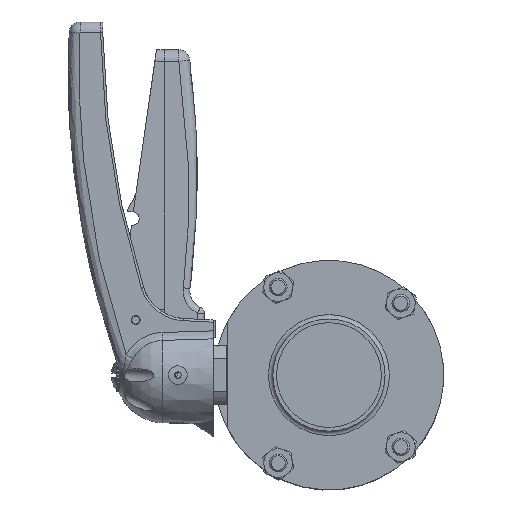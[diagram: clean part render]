
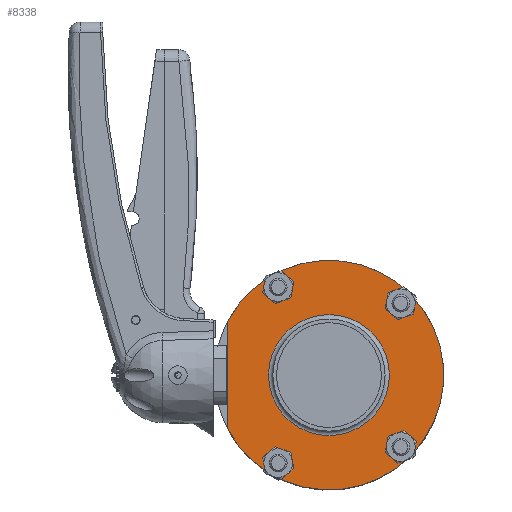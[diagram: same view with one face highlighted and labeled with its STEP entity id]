
A CAD part, top view. The second image highlights one B-rep face of the part: STEP entity #8338.
In plain terms, the highlighted planar face has unit normal (0, 0, 1) as drawn and (1, 0, 0) by its records, which use the part's own axes.
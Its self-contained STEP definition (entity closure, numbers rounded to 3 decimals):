
#876=FACE_BOUND('',#1814,.T.);
#877=FACE_BOUND('',#1815,.T.);
#878=FACE_BOUND('',#1816,.T.);
#879=FACE_BOUND('',#1817,.T.);
#880=FACE_BOUND('',#1818,.T.);
#938=PLANE('',#9062);
#1305=FACE_OUTER_BOUND('',#1813,.T.);
#1813=EDGE_LOOP('',(#6083,#6084));
#1814=EDGE_LOOP('',(#6085));
#1815=EDGE_LOOP('',(#6086));
#1816=EDGE_LOOP('',(#6087));
#1817=EDGE_LOOP('',(#6088));
#1818=EDGE_LOOP('',(#6089));
#2309=LINE('',#12230,#2891);
#2891=VECTOR('',#10012,10.);
#3485=CIRCLE('',#9047,52.);
#3491=CIRCLE('',#9055,4.1);
#3492=CIRCLE('',#9057,4.1);
#3493=CIRCLE('',#9059,4.1);
#3494=CIRCLE('',#9061,4.1);
#3495=CIRCLE('',#9063,27.4);
#3838=VERTEX_POINT('',#12228);
#3839=VERTEX_POINT('',#12229);
#3847=VERTEX_POINT('',#12251);
#3848=VERTEX_POINT('',#12255);
#3849=VERTEX_POINT('',#12259);
#3850=VERTEX_POINT('',#12263);
#3851=VERTEX_POINT('',#12267);
#4672=EDGE_CURVE('',#3838,#3839,#2309,.T.);
#4677=EDGE_CURVE('',#3839,#3838,#3485,.T.);
#4683=EDGE_CURVE('',#3847,#3847,#3491,.T.);
#4685=EDGE_CURVE('',#3848,#3848,#3492,.T.);
#4687=EDGE_CURVE('',#3849,#3849,#3493,.T.);
#4689=EDGE_CURVE('',#3850,#3850,#3494,.T.);
#4691=EDGE_CURVE('',#3851,#3851,#3495,.T.);
#6083=ORIENTED_EDGE('',*,*,#4672,.T.);
#6084=ORIENTED_EDGE('',*,*,#4677,.T.);
#6085=ORIENTED_EDGE('',*,*,#4683,.T.);
#6086=ORIENTED_EDGE('',*,*,#4685,.T.);
#6087=ORIENTED_EDGE('',*,*,#4687,.T.);
#6088=ORIENTED_EDGE('',*,*,#4689,.T.);
#6089=ORIENTED_EDGE('',*,*,#4691,.F.);
#8338=ADVANCED_FACE('',(#1305,#876,#877,#878,#879,#880),#938,.T.);
#9047=AXIS2_PLACEMENT_3D('',#12238,#10020,#10021);
#9055=AXIS2_PLACEMENT_3D('',#12252,#10036,#10037);
#9057=AXIS2_PLACEMENT_3D('',#12256,#10041,#10042);
#9059=AXIS2_PLACEMENT_3D('',#12260,#10046,#10047);
#9061=AXIS2_PLACEMENT_3D('',#12264,#10051,#10052);
#9062=AXIS2_PLACEMENT_3D('',#12266,#10054,#10055);
#9063=AXIS2_PLACEMENT_3D('',#12268,#10056,#10057);
#10012=DIRECTION('',(0.,0.,1.));
#10020=DIRECTION('center_axis',(1.,0.,0.));
#10021=DIRECTION('ref_axis',(0.,0.,-1.));
#10036=DIRECTION('center_axis',(-1.,0.,0.));
#10037=DIRECTION('ref_axis',(0.,0.,1.));
#10041=DIRECTION('center_axis',(-1.,0.,0.));
#10042=DIRECTION('ref_axis',(0.,0.,1.));
#10046=DIRECTION('center_axis',(-1.,0.,0.));
#10047=DIRECTION('ref_axis',(0.,0.,-1.));
#10051=DIRECTION('center_axis',(-1.,0.,0.));
#10052=DIRECTION('ref_axis',(0.,0.,-1.));
#10054=DIRECTION('center_axis',(1.,0.,0.));
#10055=DIRECTION('ref_axis',(0.,0.,-1.));
#10056=DIRECTION('center_axis',(1.,0.,0.));
#10057=DIRECTION('ref_axis',(0.,0.,-1.));
#12228=CARTESIAN_POINT('',(10.,46.,-24.249));
#12229=CARTESIAN_POINT('',(10.,46.,24.249));
#12230=CARTESIAN_POINT('',(10.,46.,-12.124));
#12238=CARTESIAN_POINT('Origin',(10.,0.,0.));
#12251=CARTESIAN_POINT('',(10.,23.,35.737));
#12252=CARTESIAN_POINT('Origin',(10.,23.,39.837));
#12255=CARTESIAN_POINT('',(10.,-32.527,28.427));
#12256=CARTESIAN_POINT('Origin',(10.,-32.527,32.527));
#12259=CARTESIAN_POINT('',(10.,23.,-35.737));
#12260=CARTESIAN_POINT('Origin',(10.,23.,-39.837));
#12263=CARTESIAN_POINT('',(10.,-32.527,-28.427));
#12264=CARTESIAN_POINT('Origin',(10.,-32.527,-32.527));
#12266=CARTESIAN_POINT('Origin',(10.,27.4,0.));
#12267=CARTESIAN_POINT('',(10.,0.,27.4));
#12268=CARTESIAN_POINT('Origin',(10.,0.,0.));
